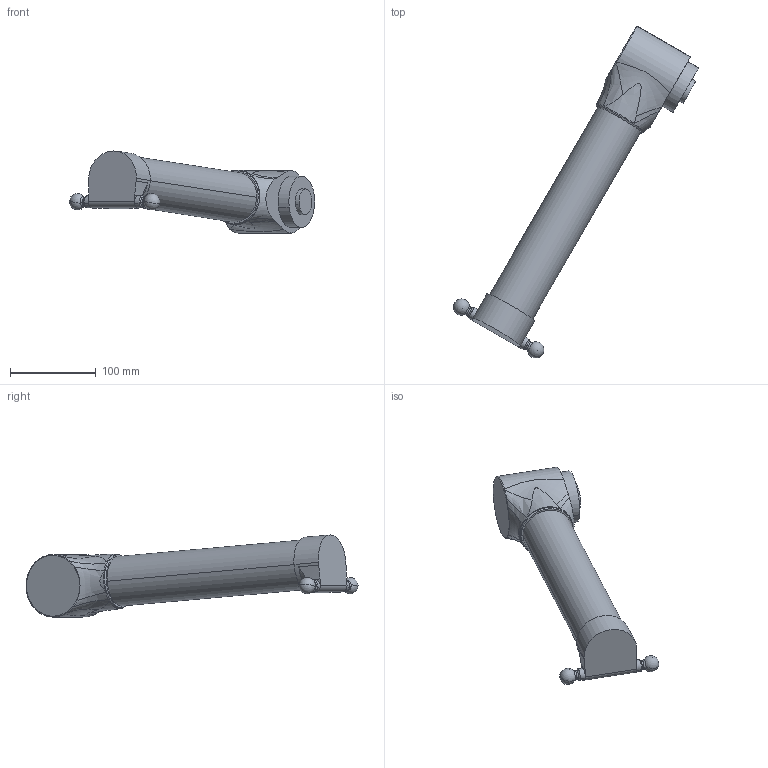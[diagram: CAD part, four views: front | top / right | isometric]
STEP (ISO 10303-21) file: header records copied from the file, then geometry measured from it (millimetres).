
FILE_DESCRIPTION (( 'STEP AP214' ), '1' );
FILE_NAME ('IRB360_8-1130-STD-4D_rev03_UA2_CAD.STEP', '2025-01-10T15:34:20', ( '' ), ( '' ), 'SwSTEP 2.0', 'SolidWorks 2022', '' );
FILE_SCHEMA (( 'AUTOMOTIVE_DESIGN' ));
Length unit declared in the file: millimetre
Products named in the file (1): IRB360_8-1130-STD-4D_rev03_UA2_CAD
Bounding box: 286.06 x 387.3 x 95.8 mm (x, y, z)
Volume: 1285188.3 mm3; surface area: 93656.7 mm2
Topology: 1 solids, 1 shells, 71 faces, 174 edges, 107 vertices
Faces by surface type: cylinder 17, bspline 17, torus 14, plane 10, cone 9, sphere 4
Entity records: 15437 total; most frequent: CARTESIAN_POINT 13392, ORIENTED_EDGE 328, DIRECTION 289, EDGE_CURVE 164, AXIS2_PLACEMENT_3D 130, VERTEX_POINT 101, EDGE_LOOP 77, CIRCLE 75
